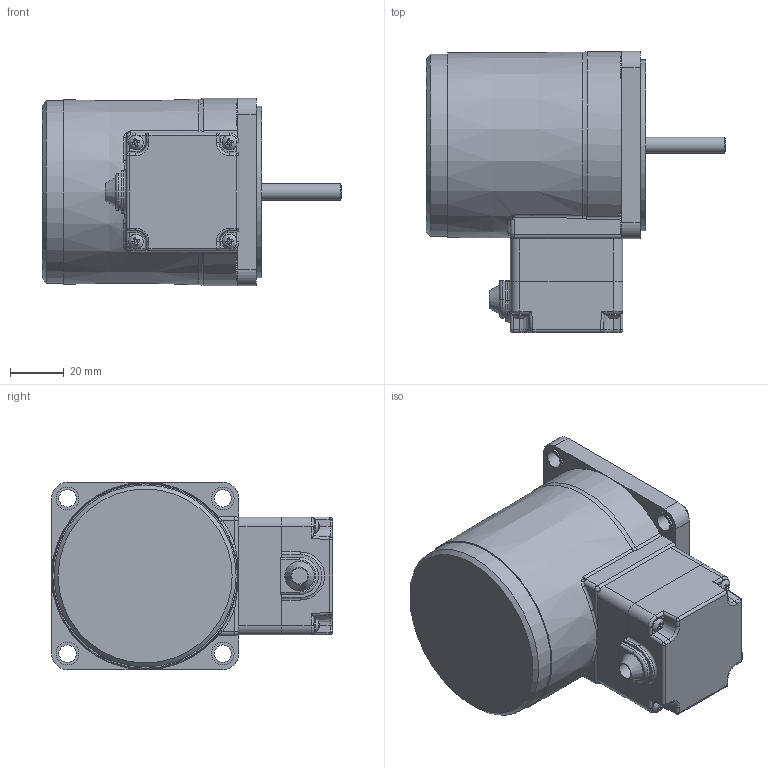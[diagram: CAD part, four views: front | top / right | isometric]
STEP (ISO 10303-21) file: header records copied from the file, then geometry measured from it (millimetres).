
FILE_DESCRIPTION(/* description */ (''),/* implementation_level */ '2;1');
FILE_NAME(/* name */ 'E:\도면작업\2016\0704) 미주향 SG 도면\3D MOTOR\TERMINAL BOX TYPE\INDUCTION TERMINAL BOX\SG7I15S_-T.stp',/* time_stamp */ '2017-01-23T17:12:31+09:00',/* author */ ('jy-jung'),/* organization */ (''),/* preprocessor_version */ 'ST-DEVELOPER v15.6',/* originating_system */ 'Autodesk Inventor 2015',/* authorisation */ '');
FILE_SCHEMA (('AUTOMOTIVE_DESIGN { 1 0 10303 214 3 1 1 }'));
Length unit declared in the file: millimetre
Products named in the file (1): 부품1
Bounding box: 112 x 105 x 70 mm (x, y, z)
Volume: 339904.8 mm3; surface area: 50557.2 mm2
Topology: 1 solids, 7 shells, 577 faces, 1487 edges, 919 vertices
Faces by surface type: plane 280, cylinder 202, torus 37, bspline 22, cone 18, sphere 18
Full cylindrical faces by diameter (mm): 2.5 x2, 3 x4, 3.5 x8, 5.6 x4, 6 x2, 6.5 x4, 8 x1, 8.5 x4, 28 x1, 64 x1, 68 x1
Entity records: 18364 total; most frequent: CARTESIAN_POINT 3957, DIRECTION 2926, ORIENTED_EDGE 2808, EDGE_CURVE 1404, AXIS2_PLACEMENT_3D 1062, VERTEX_POINT 910, LINE 802, VECTOR 802
